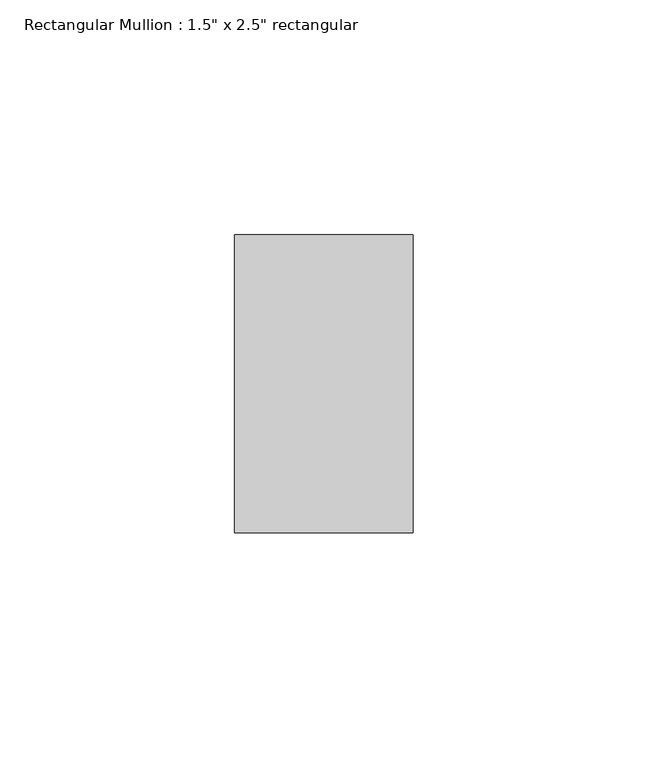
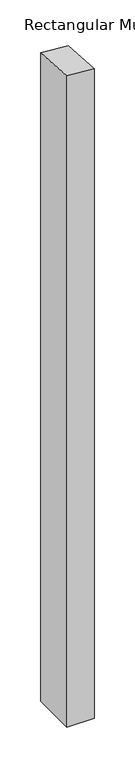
"""IFC4 building model written with IfcOpenShell, lengths in millimetres: member geometry."""

from ifc_helpers import new_model, si_unit, origin, place, context, project, spatial, faceted_brep, source, transform, mapped, element, save


def member_33b1c097(model_context):
    return source(origin(), model_context, "Body", "Brep", [
        faceted_brep([(0.0, 31.75, -965.3070447), (0.0, -31.75, -965.3070447), (-38.1, -31.75, -965.3070447), (-38.1, 31.75, -965.3070447), (-38.1, 31.75, 0.4401079), (0.0, 31.75, -2.261901), (-38.1, -31.75, 4.9639099), (0.0, -31.75, 2.261901)], [[[0, 1, 2, 3]], [[4, 5, 0, 3]], [[6, 4, 3, 2]], [[7, 6, 2, 1]], [[5, 7, 1, 0]], [[5, 4, 6, 7]]]),
    ])


if __name__ == "__main__":
    model = new_model("IFC4")
    model_context = context("Model", 3, world=origin())
    ifc_project = project(units=[si_unit("LENGTHUNIT", "METRE", prefix="MILLI")], contexts=[model_context])
    site = spatial("IfcSite", under=ifc_project)
    building = spatial("IfcBuilding", under=site)
    placement = place(None, origin())
    member_shape = member_33b1c097(model_context)
    element("IfcMember", 1, ObjectType="Rectangular Mullion : 1.5\" x 2.5\" rectangular", at=placement, inside=building, context=model_context, shape_type="MappedRepresentation", body=[
        mapped(member_shape, transform((0.0, 0.0, 0.0), x_axis=(1.0, 0.0, 0.0), y_axis=(0.0, 1.0, 0.0), z_axis=(0.0, 0.0, 1.0))),
    ])
    save(model, "model.ifc")
